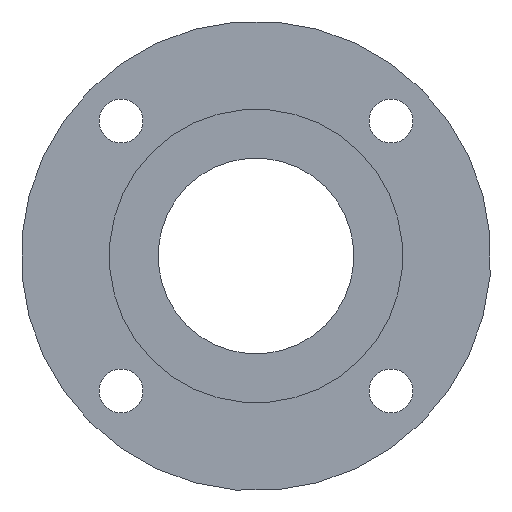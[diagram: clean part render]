
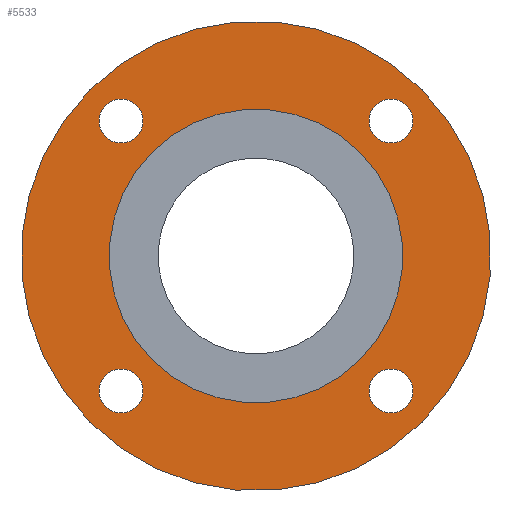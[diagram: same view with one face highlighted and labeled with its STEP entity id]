
A CAD part, left-side view. The second image highlights one B-rep face of the part: STEP entity #5533.
In plain terms, the highlighted planar face has unit normal (-1, 0, 0).
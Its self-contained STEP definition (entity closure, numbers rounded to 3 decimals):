
#107=CIRCLE('',#5884,30.);
#109=CIRCLE('',#5889,48.);
#110=CIRCLE('',#5891,4.5);
#111=CIRCLE('',#5892,4.5);
#112=CIRCLE('',#5893,4.5);
#113=CIRCLE('',#5894,4.5);
#1690=ORIENTED_EDGE('',*,*,#3278,.T.);
#1691=ORIENTED_EDGE('',*,*,#3279,.T.);
#1692=ORIENTED_EDGE('',*,*,#3280,.T.);
#1693=ORIENTED_EDGE('',*,*,#3281,.T.);
#1694=ORIENTED_EDGE('',*,*,#3275,.F.);
#1695=ORIENTED_EDGE('',*,*,#3277,.F.);
#3275=EDGE_CURVE('',#4071,#4071,#107,.F.);
#3277=EDGE_CURVE('',#4073,#4073,#109,.T.);
#3278=EDGE_CURVE('',#4074,#4074,#110,.T.);
#3279=EDGE_CURVE('',#4075,#4075,#111,.T.);
#3280=EDGE_CURVE('',#4076,#4076,#112,.T.);
#3281=EDGE_CURVE('',#4077,#4077,#113,.T.);
#4071=VERTEX_POINT('',#8730);
#4073=VERTEX_POINT('',#8737);
#4074=VERTEX_POINT('',#8740);
#4075=VERTEX_POINT('',#8742);
#4076=VERTEX_POINT('',#8744);
#4077=VERTEX_POINT('',#8746);
#4529=EDGE_LOOP('',(#1690));
#4530=EDGE_LOOP('',(#1691));
#4531=EDGE_LOOP('',(#1692));
#4532=EDGE_LOOP('',(#1693));
#4533=EDGE_LOOP('',(#1694));
#4534=EDGE_LOOP('',(#1695));
#4929=FACE_BOUND('',#4529,.T.);
#4930=FACE_BOUND('',#4530,.T.);
#4931=FACE_BOUND('',#4531,.T.);
#4932=FACE_BOUND('',#4532,.T.);
#4933=FACE_BOUND('',#4533,.T.);
#4934=FACE_BOUND('',#4534,.T.);
#5276=PLANE('',#5890);
#5533=ADVANCED_FACE('',(#4929,#4930,#4931,#4932,#4933,#4934),#5276,.F.);
#5884=AXIS2_PLACEMENT_3D('',#8729,#6394,#6395);
#5889=AXIS2_PLACEMENT_3D('',#8736,#6404,#6405);
#5890=AXIS2_PLACEMENT_3D('',#8738,#6406,#6407);
#5891=AXIS2_PLACEMENT_3D('',#8739,#6408,#6409);
#5892=AXIS2_PLACEMENT_3D('',#8741,#6410,#6411);
#5893=AXIS2_PLACEMENT_3D('',#8743,#6412,#6413);
#5894=AXIS2_PLACEMENT_3D('',#8745,#6414,#6415);
#6394=DIRECTION('',(1.,0.,0.));
#6395=DIRECTION('',(0.,0.707,-0.707));
#6404=DIRECTION('',(1.,0.,0.));
#6405=DIRECTION('',(0.,0.707,-0.707));
#6406=DIRECTION('',(1.,0.,0.));
#6407=DIRECTION('',(0.,0.707,-0.707));
#6408=DIRECTION('',(1.,0.,0.));
#6409=DIRECTION('',(0.,0.707,-0.707));
#6410=DIRECTION('',(1.,0.,0.));
#6411=DIRECTION('',(0.,0.707,-0.707));
#6412=DIRECTION('',(1.,0.,0.));
#6413=DIRECTION('',(0.,0.707,-0.707));
#6414=DIRECTION('',(1.,0.,0.));
#6415=DIRECTION('',(0.,0.707,-0.707));
#8729=CARTESIAN_POINT('',(27.,0.,0.));
#8730=CARTESIAN_POINT('',(27.,21.213,-21.213));
#8736=CARTESIAN_POINT('',(27.,0.,0.));
#8737=CARTESIAN_POINT('',(27.,33.941,-33.941));
#8738=CARTESIAN_POINT('',(27.,0.,0.));
#8739=CARTESIAN_POINT('',(27.,27.577,-27.577));
#8740=CARTESIAN_POINT('',(27.,30.759,-30.759));
#8741=CARTESIAN_POINT('',(27.,-27.577,-27.577));
#8742=CARTESIAN_POINT('',(27.,-24.395,-30.759));
#8743=CARTESIAN_POINT('',(27.,-27.577,27.577));
#8744=CARTESIAN_POINT('',(27.,-24.395,24.395));
#8745=CARTESIAN_POINT('',(27.,27.577,27.577));
#8746=CARTESIAN_POINT('',(27.,30.759,24.395));
